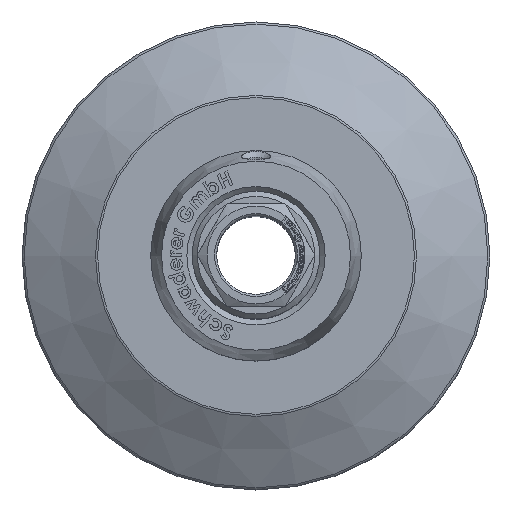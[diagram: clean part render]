
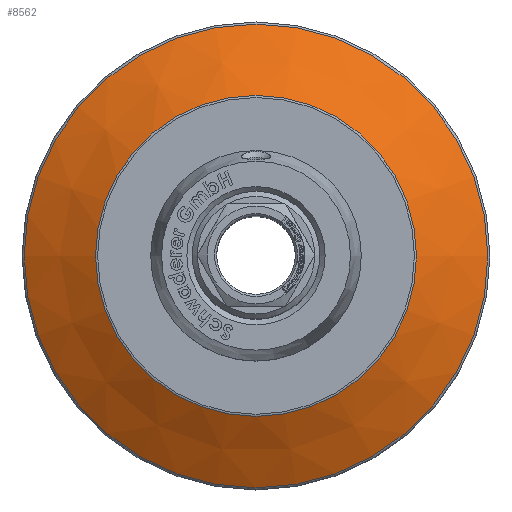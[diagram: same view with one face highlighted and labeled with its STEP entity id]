
A CAD part, top view. The second image highlights one B-rep face of the part: STEP entity #8562.
In plain terms, the highlighted conical face has half-angle 60.255 degrees and reference radius 46.25 mm.
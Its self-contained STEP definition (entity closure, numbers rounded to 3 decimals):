
#2379=CONICAL_SURFACE('',#9048,46.25,60.255);
#2397=FACE_BOUND('',#2963,.T.);
#2482=FACE_OUTER_BOUND('',#2962,.T.);
#2962=EDGE_LOOP('',(#5637));
#2963=EDGE_LOOP('',(#5638));
#3524=CIRCLE('',#9046,37.731);
#3526=CIRCLE('',#9049,54.496);
#3591=VERTEX_POINT('',#10873);
#3593=VERTEX_POINT('',#10878);
#4415=EDGE_CURVE('',#3591,#3591,#3524,.T.);
#4417=EDGE_CURVE('',#3593,#3593,#3526,.T.);
#5637=ORIENTED_EDGE('',*,*,#4417,.F.);
#5638=ORIENTED_EDGE('',*,*,#4415,.F.);
#8562=ADVANCED_FACE('',(#2482,#2397),#2379,.T.);
#9046=AXIS2_PLACEMENT_3D('',#10874,#9407,#9408);
#9048=AXIS2_PLACEMENT_3D('',#10877,#9411,#9412);
#9049=AXIS2_PLACEMENT_3D('',#10879,#9413,#9414);
#9407=DIRECTION('center_axis',(0.,0.,
1.));
#9408=DIRECTION('ref_axis',(-1.,0.,0.));
#9411=DIRECTION('center_axis',(0.,0.,-1.));
#9412=DIRECTION('ref_axis',(1.,0.,0.));
#9413=DIRECTION('center_axis',(0.,0.,
-1.));
#9414=DIRECTION('ref_axis',(-1.,0.,0.));
#10873=CARTESIAN_POINT('',(37.731,0.,-23.999));
#10874=CARTESIAN_POINT('Origin',(0.,0.,
-23.999));
#10877=CARTESIAN_POINT('Origin',(0.,0.,-28.867));
#10878=CARTESIAN_POINT('',(54.496,0.,-33.579));
#10879=CARTESIAN_POINT('Origin',(0.,0.,
-33.579));
